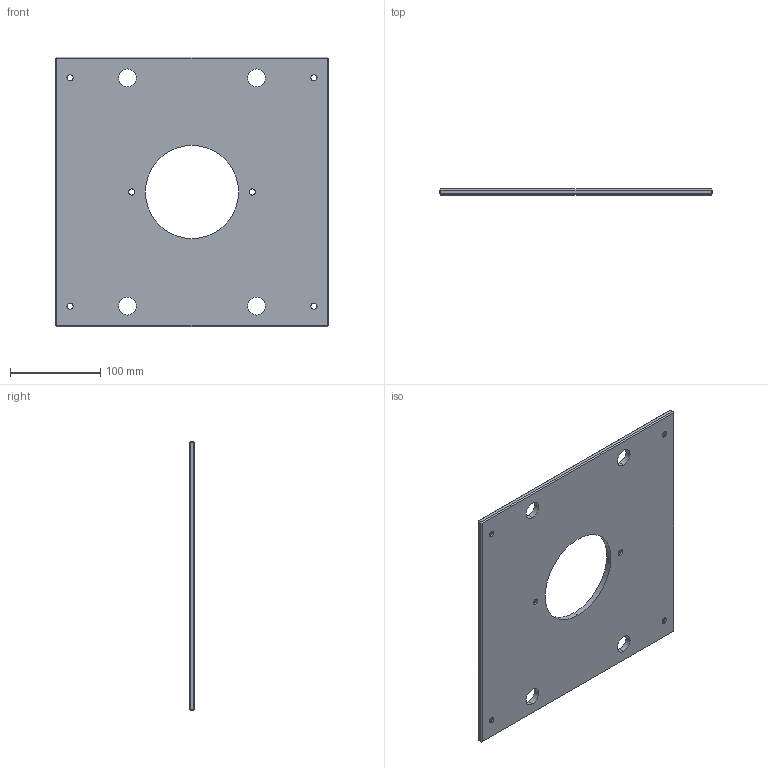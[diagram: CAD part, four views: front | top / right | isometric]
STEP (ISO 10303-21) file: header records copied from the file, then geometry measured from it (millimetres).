
FILE_DESCRIPTION (( 'STEP AP214' ), '1' );
FILE_NAME ('ME-0619-CH-1212.STEP', '2020-02-10T17:09:02', ( '' ), ( '' ), 'SwSTEP 2.0', 'SolidWorks 2018', '' );
FILE_SCHEMA (( 'AUTOMOTIVE_DESIGN' ));
Length unit declared in the file: inch
Products named in the file (1): ME-0619-CH-1212
Bounding box: 301.62 x 6.35 x 298.45 mm (x, y, z)
Volume: 506003.5 mm3; surface area: 170531.6 mm2
Topology: 1 solids, 1 shells, 60 faces, 138 edges, 80 vertices
Faces by surface type: plane 26, cylinder 22, cone 12
Entity records: 1754 total; most frequent: DIRECTION 316, CARTESIAN_POINT 279, ORIENTED_EDGE 276, EDGE_CURVE 138, AXIS2_PLACEMENT_3D 117, VECTOR 82, EDGE_LOOP 82, LINE 82
